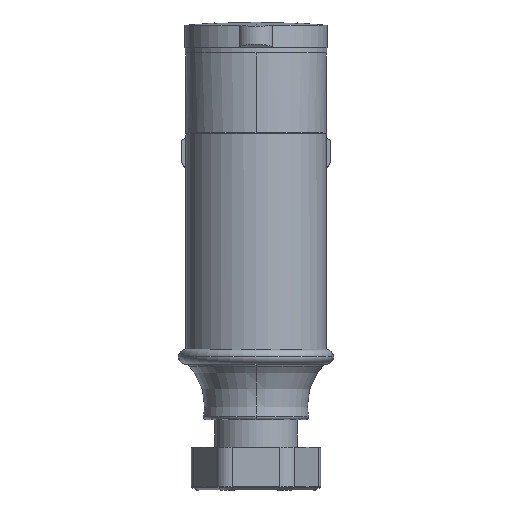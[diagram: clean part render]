
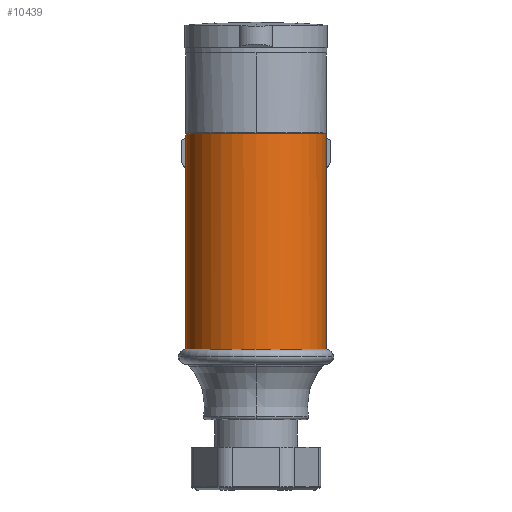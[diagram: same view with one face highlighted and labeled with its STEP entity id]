
A CAD part, front view. The second image highlights one B-rep face of the part: STEP entity #10439.
In plain terms, the highlighted cylindrical face has radius 24.7 mm (diameter 49.4 mm), a partial arc.
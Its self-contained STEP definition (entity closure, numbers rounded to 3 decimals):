
#654=CARTESIAN_POINT('',(0.,0.,5.6));
#655=DIRECTION('',(0.,0.,-1.));
#656=DIRECTION('',(1.,-0.012,0.));
#657=AXIS2_PLACEMENT_3D('',#654,#655,#656);
#685=DIRECTION('',(0.,0.,-1.));
#686=VECTOR('',#685,0.551);
#687=CARTESIAN_POINT('',(-24.7,0.,5.6));
#688=LINE('1081',#687,#686);
#692=CARTESIAN_POINT('',(24.7,0.,5.3));
#693=CARTESIAN_POINT('',(24.7,0.,5.341));
#694=CARTESIAN_POINT('',(24.7,-0.016,5.417));
#695=CARTESIAN_POINT('',(24.7,-0.082,5.518));
#696=CARTESIAN_POINT('',(24.699,-0.183,5.584));
#697=CARTESIAN_POINT('',(24.699,-0.259,5.6));
#698=CARTESIAN_POINT('',(24.698,-0.3,5.6));
#703=DIRECTION('',(0.,0.,-1.));
#704=VECTOR('',#703,0.251);
#705=CARTESIAN_POINT('',(24.7,0.,5.3));
#706=LINE('1083',#705,#704);
#710=DIRECTION('',(0.,0.,1.));
#711=VECTOR('',#710,12.133);
#712=CARTESIAN_POINT('',(24.7,0.,-7.085));
#713=LINE('1086',#712,#711);
#717=DIRECTION('',(0.,0.,-1.));
#718=VECTOR('',#717,63.115);
#719=CARTESIAN_POINT('',(24.7,0.,-7.085));
#720=LINE('1084',#719,#718);
#724=CARTESIAN_POINT('',(0.,0.,-70.2));
#725=DIRECTION('',(0.,0.,-1.));
#726=DIRECTION('',(1.,0.,0.));
#727=AXIS2_PLACEMENT_3D('',#724,#725,#726);
#732=DIRECTION('',(0.,0.,-1.));
#733=VECTOR('',#732,63.115);
#734=CARTESIAN_POINT('',(-24.7,0.,-7.085));
#735=LINE('1082',#734,#733);
#739=DIRECTION('',(0.,0.,1.));
#740=VECTOR('',#739,12.133);
#741=CARTESIAN_POINT('',(-24.7,0.,-7.085));
#742=LINE('1085',#741,#740);
#4627=CARTESIAN_POINT('',(24.7,0.,-7.085));
#6086=CARTESIAN_POINT('',(-24.7,0.,-7.085));
#9611=CARTESIAN_POINT('',(24.698,-0.3,5.6));
#9612=VERTEX_POINT('',#9611);
#9839=VERTEX_POINT('',#6086);
#9840=VERTEX_POINT('',#4627);
#9867=CARTESIAN_POINT('',(-24.7,0.,5.6));
#9868=CARTESIAN_POINT('',(-24.7,0.,5.049));
#9869=VERTEX_POINT('',#9867);
#9870=VERTEX_POINT('',#9868);
#9871=CARTESIAN_POINT('',(-24.7,0.,-70.2));
#9872=VERTEX_POINT('',#9871);
#9873=CARTESIAN_POINT('',(24.7,0.,5.3));
#9874=CARTESIAN_POINT('',(24.7,0.,5.049));
#9875=VERTEX_POINT('',#9873);
#9876=VERTEX_POINT('',#9874);
#9877=CARTESIAN_POINT('',(24.7,0.,-70.2));
#9878=VERTEX_POINT('',#9877);
#10419=CARTESIAN_POINT('',(0.,0.,-79.45));
#10420=DIRECTION('',(0.,0.,1.));
#10421=DIRECTION('',(1.,0.,0.));
#10422=AXIS2_PLACEMENT_3D('',#10419,#10420,#10421);
#10423=CYLINDRICAL_SURFACE('185',#10422,24.7);
#10424=ORIENTED_EDGE('1081',*,*,#10274,.F.);
#10425=ORIENTED_EDGE('1107',*,*,#10395,.F.);
#10427=ORIENTED_EDGE('1106',*,*,#10426,.F.);
#10428=ORIENTED_EDGE('1083',*,*,#10318,.T.);
#10430=ORIENTED_EDGE('1086',*,*,#10429,.F.);
#10431=ORIENTED_EDGE('1084',*,*,#10298,.T.);
#10433=ORIENTED_EDGE('1102',*,*,#10432,.T.);
#10434=ORIENTED_EDGE('1082',*,*,#10294,.F.);
#10436=ORIENTED_EDGE('1085',*,*,#10435,.T.);
#10437=EDGE_LOOP('185',(#10424,#10425,#10427,#10428,#10430,#10431,#10433,#10434,
#10436));
#10438=FACE_OUTER_BOUND('185',#10437,.F.);
#658=CIRCLE('1107',#657,24.7);
#699=B_SPLINE_CURVE_WITH_KNOTS('1106',3,(#692,#693,#694,#695,#696,#697,#698),
.UNSPECIFIED.,.F.,.F.,(4,1,1,1,4),(0.,0.25,0.5,0.75,1.),
.UNSPECIFIED.);
#728=CIRCLE('1102',#727,24.7);
#10274=EDGE_CURVE('1081',#9869,#9870,#688,.T.);
#10294=EDGE_CURVE('1082',#9839,#9872,#735,.T.);
#10298=EDGE_CURVE('1084',#9840,#9878,#720,.T.);
#10318=EDGE_CURVE('1083',#9875,#9876,#706,.T.);
#10395=EDGE_CURVE('1107',#9612,#9869,#658,.T.);
#10426=EDGE_CURVE('1106',#9875,#9612,#699,.T.);
#10429=EDGE_CURVE('1086',#9840,#9876,#713,.T.);
#10432=EDGE_CURVE('1102',#9878,#9872,#728,.T.);
#10435=EDGE_CURVE('1085',#9839,#9870,#742,.T.);
#10439=ADVANCED_FACE('185',(#10438),#10423,.T.);
